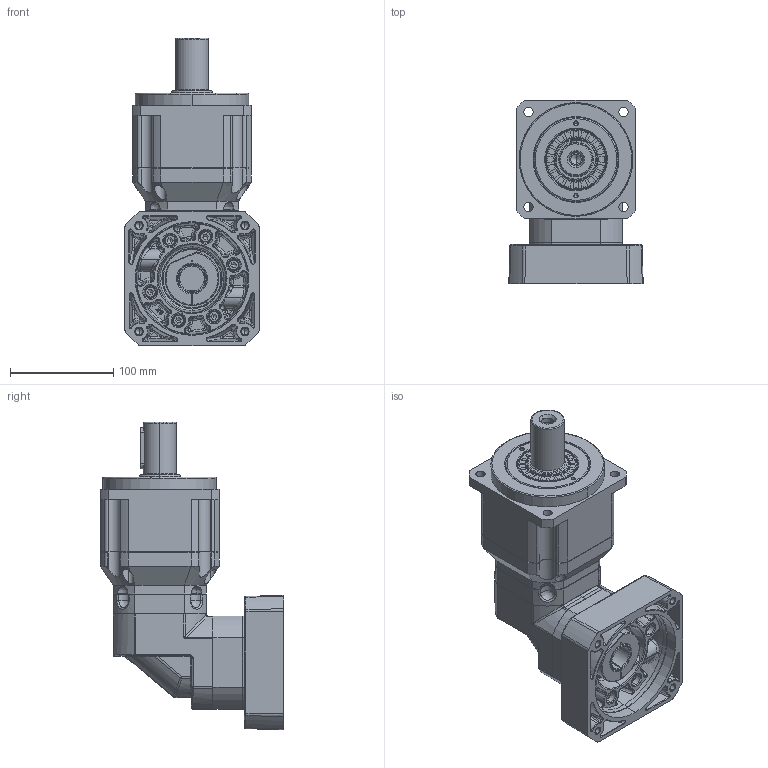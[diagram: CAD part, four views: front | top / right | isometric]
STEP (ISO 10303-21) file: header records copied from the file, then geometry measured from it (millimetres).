
FILE_DESCRIPTION (( 'STEP AP214' ), '1' );
FILE_NAME ('PAR115-L2-S2-P1 24-110-145-M8-59.STEP', '2025-02-15T06:18:16', ( '微软用户' ), ( '微软中国' ), 'SwSTEP 2.0', 'SolidWorks 2021', '' );
FILE_SCHEMA (( 'AUTOMOTIVE_DESIGN' ));
Length unit declared in the file: millimetre
Products named in the file (4): PAR-115D-L1-S1-10-145-M8-64.STEP; PAR-115M1-L2-S2-24-110-145-M8-59.STEP; 6-PAR090F_________step_stp_stp.stp.STEP; PAR115-L2-S2-P1 24-110-145-M8-59
Assembly tree (4 placements, depth 2):
  PAR115-L2-S2-P1 24-110-145-M8-59
    PAR-115M1-L2-S2-24-110-145-M8-59.STEP
    6-PAR090F_________step_stp_stp.stp.STEP
    PAR-115D-L1-S1-10-145-M8-64.STEP  x2
Bounding box: 130 x 177.5 x 297.5 mm (x, y, z)
Volume: 239142.3 mm3; surface area: 348251.4 mm2
Topology: 4 solids, 37 shells, 1878 faces, 4572 edges, 2807 vertices
Faces by surface type: bspline 620, plane 477, cylinder 452, cone 316, torus 13
Entity records: 147334 total; most frequent: CARTESIAN_POINT 108735, ORIENTED_EDGE 8854, DIRECTION 6531, EDGE_CURVE 4459, VERTEX_POINT 2780, AXIS2_PLACEMENT_3D 2542, EDGE_LOOP 2017, ADVANCED_FACE 1859
